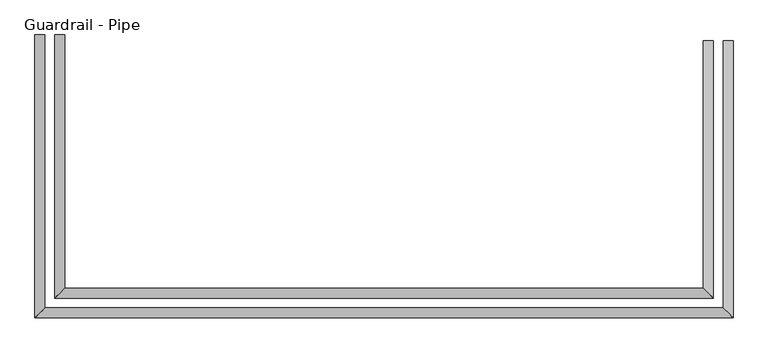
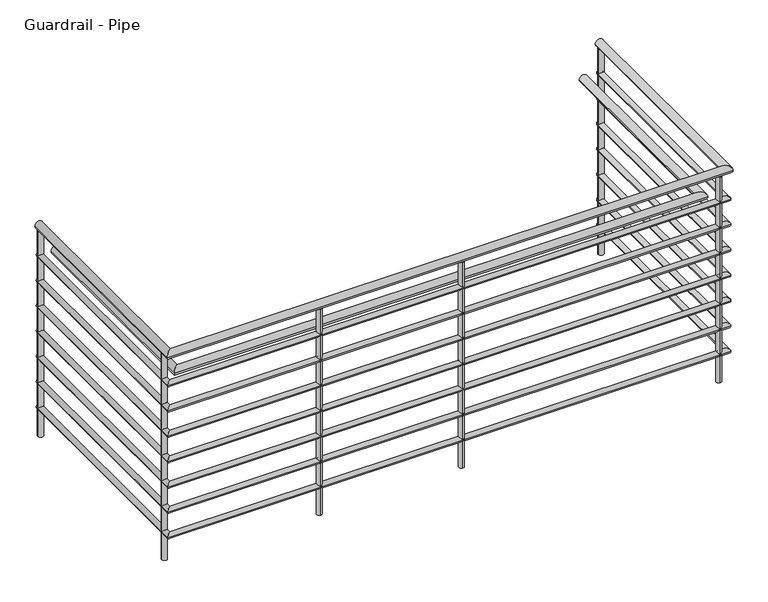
"""IFC4 building model written with IfcOpenShell, lengths in millimetres: railing geometry, Guardrail - Pipe."""

from ifc_helpers import new_model, si_unit, point, frame, frame_2d, origin, place, context, project, spatial, circle_curve, ellipse_curve, trimmed, segment, composite_curve, outline, extrude, source, transform, mapped, element, save
from ifc_brep_helpers import plane_surface, cylinder_surface, advanced_brep


def guardrail_pipe_d0326d6f(model_context):
    return source(origin(), model_context, "Body", "SolidModel", [
        advanced_brep(
        [(-3673.2939612, -6967.115357, 8362.95), (-3635.1939612, -6967.115357, 8362.95), (-3673.2939612, -8052.965357, 8362.95), (-3635.1939612, -8014.865357, 8362.95), (-993.5939612, -8052.965357, 8362.95), (-1031.6939612, -8014.865357, 8362.95), (-993.5939612, -6989.340357, 8362.95), (-1031.6939612, -6989.340357, 8362.95)],
        [
            (0, 1, circle_curve(frame((-3654.2439612, -6967.115357, 8362.95), z_axis=(0.0, 1.0, 0.0), x_axis=(1.0, 0.0, 0.0)), 19.05)),
            (1, 0, circle_curve(frame((-3654.2439612, -6967.115357, 8362.95), z_axis=(0.0, 1.0, 0.0), x_axis=(1.0, 0.0, 0.0)), 19.05)),
            (0, 2),
            (2, 3, ellipse_curve(frame((-3654.2439612, -8033.915357, 8362.95), z_axis=(-0.7071067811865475, 0.7071067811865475, 0.0), x_axis=(0.7071067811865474, 0.7071067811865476, 0.0)), 26.9407684, 19.05)),
            (3, 1),
            (3, 2, ellipse_curve(frame((-3654.2439612, -8033.915357, 8362.95), z_axis=(-0.7071067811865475, 0.7071067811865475, 0.0), x_axis=(0.7071067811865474, 0.7071067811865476, 0.0)), 26.9407684, 19.05)),
            (2, 4),
            (4, 5, ellipse_curve(frame((-1012.6439612, -8033.915357, 8362.95), z_axis=(-0.7071067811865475, -0.7071067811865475, 0.0), x_axis=(-0.7071067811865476, 0.7071067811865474, 0.0)), 26.9407684, 19.05)),
            (5, 3),
            (5, 4, ellipse_curve(frame((-1012.6439612, -8033.915357, 8362.95), z_axis=(-0.7071067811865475, -0.7071067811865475, 0.0), x_axis=(-0.7071067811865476, 0.7071067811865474, 0.0)), 26.9407684, 19.05)),
            (6, 7, circle_curve(frame((-1012.6439612, -6989.340357, 8362.95), z_axis=(0.0, 1.0, 0.0), x_axis=(-1.0, 0.0, 0.0)), 19.05)),
            (7, 6, circle_curve(frame((-1012.6439612, -6989.340357, 8362.95), z_axis=(0.0, 1.0, 0.0), x_axis=(-1.0, 0.0, 0.0)), 19.05)),
            (4, 6),
            (7, 5),
        ],
        [
            plane_surface(frame((-3654.2439612, -6967.115357, 8382.0), z_axis=(0.0, 1.0, 0.0), x_axis=(0.0, 0.0, -1.0))),
            cylinder_surface(frame((-3654.2439612, -6967.115357, 8362.95), z_axis=(0.0, 1.0, 0.0), x_axis=(1.0, 0.0, 0.0)), 19.05),
            cylinder_surface(frame((-3654.2439612, -8033.915357, 8362.95), z_axis=(-1.0, 0.0, 0.0), x_axis=(0.0, 1.0, 0.0)), 19.05),
            plane_surface(frame((-1012.6439612, -6989.340357, 8382.0), z_axis=(0.0, 1.0, 0.0), x_axis=(0.0, 0.0, 1.0))),
            cylinder_surface(frame((-1012.6439612, -8033.915357, 8362.95), z_axis=(0.0, -1.0, 0.0), x_axis=(-1.0, 0.0, 0.0)), 19.05),
        ],
        [
            (0, [[1, 2]]),
            (1, [[-1, 3, 4, 5]]),
            (1, [[-2, -5, 6, -3]]),
            (2, [[-4, 7, 8, 9]]),
            (2, [[-6, -9, 10, -7]]),
            (3, [[11, 12]]),
            (4, [[-8, 13, -12, 14]]),
            (4, [[-10, -14, -11, -13]]),
        ],
    ),
        advanced_brep(
        [(-3666.9439612, -6967.115357, 8216.9), (-3641.5439612, -6967.115357, 8216.9), (-3666.9439612, -8046.615357, 8216.9), (-3641.5439612, -8021.215357, 8216.9), (-999.9439612, -8046.615357, 8216.9), (-1025.3439612, -8021.215357, 8216.9), (-999.9439612, -6989.340357, 8216.9), (-1025.3439612, -6989.340357, 8216.9)],
        [
            (0, 1, circle_curve(frame((-3654.2439612, -6967.115357, 8216.9), z_axis=(0.0, 1.0, 0.0), x_axis=(1.0, 0.0, 0.0)), 12.7)),
            (1, 0, circle_curve(frame((-3654.2439612, -6967.115357, 8216.9), z_axis=(0.0, 1.0, 0.0), x_axis=(1.0, 0.0, 0.0)), 12.7)),
            (0, 2),
            (2, 3, ellipse_curve(frame((-3654.2439612, -8033.915357, 8216.9), z_axis=(-0.7071067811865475, 0.7071067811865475, 0.0), x_axis=(0.7071067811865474, 0.7071067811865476, 0.0)), 17.9605122, 12.7)),
            (3, 1),
            (3, 2, ellipse_curve(frame((-3654.2439612, -8033.915357, 8216.9), z_axis=(-0.7071067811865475, 0.7071067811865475, 0.0), x_axis=(0.7071067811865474, 0.7071067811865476, 0.0)), 17.9605122, 12.7)),
            (2, 4),
            (4, 5, ellipse_curve(frame((-1012.6439612, -8033.915357, 8216.9), z_axis=(-0.7071067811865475, -0.7071067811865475, 0.0), x_axis=(-0.7071067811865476, 0.7071067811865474, 0.0)), 17.9605122, 12.7)),
            (5, 3),
            (5, 4, ellipse_curve(frame((-1012.6439612, -8033.915357, 8216.9), z_axis=(-0.7071067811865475, -0.7071067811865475, 0.0), x_axis=(-0.7071067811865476, 0.7071067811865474, 0.0)), 17.9605122, 12.7)),
            (6, 7, circle_curve(frame((-1012.6439612, -6989.340357, 8216.9), z_axis=(0.0, 1.0, 0.0), x_axis=(-1.0, 0.0, 0.0)), 12.7)),
            (7, 6, circle_curve(frame((-1012.6439612, -6989.340357, 8216.9), z_axis=(0.0, 1.0, 0.0), x_axis=(-1.0, 0.0, 0.0)), 12.7)),
            (4, 6),
            (7, 5),
        ],
        [
            plane_surface(frame((-3654.2439612, -6967.115357, 8229.6), z_axis=(0.0, 1.0, 0.0), x_axis=(0.0, 0.0, -1.0))),
            cylinder_surface(frame((-3654.2439612, -6967.115357, 8216.9), z_axis=(0.0, 1.0, 0.0), x_axis=(1.0, 0.0, 0.0)), 12.7),
            cylinder_surface(frame((-3654.2439612, -8033.915357, 8216.9), z_axis=(-1.0, 0.0, 0.0), x_axis=(0.0, 1.0, 0.0)), 12.7),
            plane_surface(frame((-1012.6439612, -6989.340357, 8229.6), z_axis=(0.0, 1.0, 0.0), x_axis=(0.0, 0.0, 1.0))),
            cylinder_surface(frame((-1012.6439612, -8033.915357, 8216.9), z_axis=(0.0, -1.0, 0.0), x_axis=(-1.0, 0.0, 0.0)), 12.7),
        ],
        [
            (0, [[1, 2]]),
            (1, [[-1, 3, 4, 5]]),
            (1, [[-2, -5, 6, -3]]),
            (2, [[-4, 7, 8, 9]]),
            (2, [[-6, -9, 10, -7]]),
            (3, [[11, 12]]),
            (4, [[-8, 13, -12, 14]]),
            (4, [[-10, -14, -11, -13]]),
        ],
    ),
        advanced_brep(
        [(-3597.0939612, -6967.115357, 8210.55), (-3558.9939612, -6967.115357, 8210.55), (-3597.0939612, -7976.765357, 8210.55), (-3558.9939612, -7938.665357, 8210.55), (-1069.7939612, -7976.765357, 8210.55), (-1107.8939612, -7938.665357, 8210.55), (-1069.7939612, -6989.340357, 8210.55), (-1107.8939612, -6989.340357, 8210.55)],
        [
            (0, 1, circle_curve(frame((-3578.0439612, -6967.115357, 8210.55), z_axis=(0.0, 1.0, 0.0), x_axis=(1.0, 0.0, 0.0)), 19.05)),
            (1, 0, circle_curve(frame((-3578.0439612, -6967.115357, 8210.55), z_axis=(0.0, 1.0, 0.0), x_axis=(1.0, 0.0, 0.0)), 19.05)),
            (0, 2),
            (2, 3, ellipse_curve(frame((-3578.0439612, -7957.715357, 8210.55), z_axis=(-0.7071067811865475, 0.7071067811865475, 0.0), x_axis=(0.7071067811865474, 0.7071067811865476, 0.0)), 26.9407684, 19.05)),
            (3, 1),
            (3, 2, ellipse_curve(frame((-3578.0439612, -7957.715357, 8210.55), z_axis=(-0.7071067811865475, 0.7071067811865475, 0.0), x_axis=(0.7071067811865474, 0.7071067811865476, 0.0)), 26.9407684, 19.05)),
            (2, 4),
            (4, 5, ellipse_curve(frame((-1088.8439612, -7957.715357, 8210.55), z_axis=(-0.7071067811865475, -0.7071067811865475, 0.0), x_axis=(-0.7071067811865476, 0.7071067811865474, 0.0)), 26.9407684, 19.05)),
            (5, 3),
            (5, 4, ellipse_curve(frame((-1088.8439612, -7957.715357, 8210.55), z_axis=(-0.7071067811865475, -0.7071067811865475, 0.0), x_axis=(-0.7071067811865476, 0.7071067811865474, 0.0)), 26.9407684, 19.05)),
            (6, 7, circle_curve(frame((-1088.8439612, -6989.340357, 8210.55), z_axis=(0.0, 1.0, 0.0), x_axis=(-1.0, 0.0, 0.0)), 19.05)),
            (7, 6, circle_curve(frame((-1088.8439612, -6989.340357, 8210.55), z_axis=(0.0, 1.0, 0.0), x_axis=(-1.0, 0.0, 0.0)), 19.05)),
            (4, 6),
            (7, 5),
        ],
        [
            plane_surface(frame((-3578.0439612, -6967.115357, 8229.6), z_axis=(0.0, 1.0, 0.0), x_axis=(0.0, 0.0, -1.0))),
            cylinder_surface(frame((-3578.0439612, -6967.115357, 8210.55), z_axis=(0.0, 1.0, 0.0), x_axis=(1.0, 0.0, 0.0)), 19.05),
            cylinder_surface(frame((-3578.0439612, -7957.715357, 8210.55), z_axis=(-1.0, 0.0, 0.0), x_axis=(0.0, 1.0, 0.0)), 19.05),
            plane_surface(frame((-1088.8439612, -6989.340357, 8229.6), z_axis=(0.0, 1.0, 0.0), x_axis=(0.0, 0.0, 1.0))),
            cylinder_surface(frame((-1088.8439612, -7957.715357, 8210.55), z_axis=(0.0, -1.0, 0.0), x_axis=(-1.0, 0.0, 0.0)), 19.05),
        ],
        [
            (0, [[1, 2]]),
            (1, [[-1, 3, 4, 5]]),
            (1, [[-2, -5, 6, -3]]),
            (2, [[-4, 7, 8, 9]]),
            (2, [[-6, -9, 10, -7]]),
            (3, [[11, 12]]),
            (4, [[-8, 13, -12, 14]]),
            (4, [[-10, -14, -11, -13]]),
        ],
    ),
        advanced_brep(
        [(-3666.9439612, -6967.115357, 8089.9), (-3641.5439612, -6967.115357, 8089.9), (-3666.9439612, -8046.615357, 8089.9), (-3641.5439612, -8021.215357, 8089.9), (-999.9439612, -8046.615357, 8089.9), (-1025.3439612, -8021.215357, 8089.9), (-999.9439612, -6989.340357, 8089.9), (-1025.3439612, -6989.340357, 8089.9)],
        [
            (0, 1, circle_curve(frame((-3654.2439612, -6967.115357, 8089.9), z_axis=(0.0, 1.0, 0.0), x_axis=(1.0, 0.0, 0.0)), 12.7)),
            (1, 0, circle_curve(frame((-3654.2439612, -6967.115357, 8089.9), z_axis=(0.0, 1.0, 0.0), x_axis=(1.0, 0.0, 0.0)), 12.7)),
            (0, 2),
            (2, 3, ellipse_curve(frame((-3654.2439612, -8033.915357, 8089.9), z_axis=(-0.7071067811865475, 0.7071067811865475, 0.0), x_axis=(0.7071067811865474, 0.7071067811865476, 0.0)), 17.9605122, 12.7)),
            (3, 1),
            (3, 2, ellipse_curve(frame((-3654.2439612, -8033.915357, 8089.9), z_axis=(-0.7071067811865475, 0.7071067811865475, 0.0), x_axis=(0.7071067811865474, 0.7071067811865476, 0.0)), 17.9605122, 12.7)),
            (2, 4),
            (4, 5, ellipse_curve(frame((-1012.6439612, -8033.915357, 8089.9), z_axis=(-0.7071067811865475, -0.7071067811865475, 0.0), x_axis=(-0.7071067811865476, 0.7071067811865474, 0.0)), 17.9605122, 12.7)),
            (5, 3),
            (5, 4, ellipse_curve(frame((-1012.6439612, -8033.915357, 8089.9), z_axis=(-0.7071067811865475, -0.7071067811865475, 0.0), x_axis=(-0.7071067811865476, 0.7071067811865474, 0.0)), 17.9605122, 12.7)),
            (6, 7, circle_curve(frame((-1012.6439612, -6989.340357, 8089.9), z_axis=(0.0, 1.0, 0.0), x_axis=(-1.0, 0.0, 0.0)), 12.7)),
            (7, 6, circle_curve(frame((-1012.6439612, -6989.340357, 8089.9), z_axis=(0.0, 1.0, 0.0), x_axis=(-1.0, 0.0, 0.0)), 12.7)),
            (4, 6),
            (7, 5),
        ],
        [
            plane_surface(frame((-3654.2439612, -6967.115357, 8102.6), z_axis=(0.0, 1.0, 0.0), x_axis=(0.0, 0.0, -1.0))),
            cylinder_surface(frame((-3654.2439612, -6967.115357, 8089.9), z_axis=(0.0, 1.0, 0.0), x_axis=(1.0, 0.0, 0.0)), 12.7),
            cylinder_surface(frame((-3654.2439612, -8033.915357, 8089.9), z_axis=(-1.0, 0.0, 0.0), x_axis=(0.0, 1.0, 0.0)), 12.7),
            plane_surface(frame((-1012.6439612, -6989.340357, 8102.6), z_axis=(0.0, 1.0, 0.0), x_axis=(0.0, 0.0, 1.0))),
            cylinder_surface(frame((-1012.6439612, -8033.915357, 8089.9), z_axis=(0.0, -1.0, 0.0), x_axis=(-1.0, 0.0, 0.0)), 12.7),
        ],
        [
            (0, [[1, 2]]),
            (1, [[-1, 3, 4, 5]]),
            (1, [[-2, -5, 6, -3]]),
            (2, [[-4, 7, 8, 9]]),
            (2, [[-6, -9, 10, -7]]),
            (3, [[11, 12]]),
            (4, [[-8, 13, -12, 14]]),
            (4, [[-10, -14, -11, -13]]),
        ],
    ),
        advanced_brep(
        [(-3666.9439612, -6967.115357, 7962.9), (-3641.5439612, -6967.115357, 7962.9), (-3666.9439612, -8046.615357, 7962.9), (-3641.5439612, -8021.215357, 7962.9), (-999.9439612, -8046.615357, 7962.9), (-1025.3439612, -8021.215357, 7962.9), (-999.9439612, -6989.340357, 7962.9), (-1025.3439612, -6989.340357, 7962.9)],
        [
            (0, 1, circle_curve(frame((-3654.2439612, -6967.115357, 7962.9), z_axis=(0.0, 1.0, 0.0), x_axis=(1.0, 0.0, 0.0)), 12.7)),
            (1, 0, circle_curve(frame((-3654.2439612, -6967.115357, 7962.9), z_axis=(0.0, 1.0, 0.0), x_axis=(1.0, 0.0, 0.0)), 12.7)),
            (0, 2),
            (2, 3, ellipse_curve(frame((-3654.2439612, -8033.915357, 7962.9), z_axis=(-0.7071067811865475, 0.7071067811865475, 0.0), x_axis=(0.7071067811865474, 0.7071067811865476, 0.0)), 17.9605122, 12.7)),
            (3, 1),
            (3, 2, ellipse_curve(frame((-3654.2439612, -8033.915357, 7962.9), z_axis=(-0.7071067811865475, 0.7071067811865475, 0.0), x_axis=(0.7071067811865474, 0.7071067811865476, 0.0)), 17.9605122, 12.7)),
            (2, 4),
            (4, 5, ellipse_curve(frame((-1012.6439612, -8033.915357, 7962.9), z_axis=(-0.7071067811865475, -0.7071067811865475, 0.0), x_axis=(-0.7071067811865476, 0.7071067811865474, 0.0)), 17.9605122, 12.7)),
            (5, 3),
            (5, 4, ellipse_curve(frame((-1012.6439612, -8033.915357, 7962.9), z_axis=(-0.7071067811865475, -0.7071067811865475, 0.0), x_axis=(-0.7071067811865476, 0.7071067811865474, 0.0)), 17.9605122, 12.7)),
            (6, 7, circle_curve(frame((-1012.6439612, -6989.340357, 7962.9), z_axis=(0.0, 1.0, 0.0), x_axis=(-1.0, 0.0, 0.0)), 12.7)),
            (7, 6, circle_curve(frame((-1012.6439612, -6989.340357, 7962.9), z_axis=(0.0, 1.0, 0.0), x_axis=(-1.0, 0.0, 0.0)), 12.7)),
            (4, 6),
            (7, 5),
        ],
        [
            plane_surface(frame((-3654.2439612, -6967.115357, 7975.6), z_axis=(0.0, 1.0, 0.0), x_axis=(0.0, 0.0, -1.0))),
            cylinder_surface(frame((-3654.2439612, -6967.115357, 7962.9), z_axis=(0.0, 1.0, 0.0), x_axis=(1.0, 0.0, 0.0)), 12.7),
            cylinder_surface(frame((-3654.2439612, -8033.915357, 7962.9), z_axis=(-1.0, 0.0, 0.0), x_axis=(0.0, 1.0, 0.0)), 12.7),
            plane_surface(frame((-1012.6439612, -6989.340357, 7975.6), z_axis=(0.0, 1.0, 0.0), x_axis=(0.0, 0.0, 1.0))),
            cylinder_surface(frame((-1012.6439612, -8033.915357, 7962.9), z_axis=(0.0, -1.0, 0.0), x_axis=(-1.0, 0.0, 0.0)), 12.7),
        ],
        [
            (0, [[1, 2]]),
            (1, [[-1, 3, 4, 5]]),
            (1, [[-2, -5, 6, -3]]),
            (2, [[-4, 7, 8, 9]]),
            (2, [[-6, -9, 10, -7]]),
            (3, [[11, 12]]),
            (4, [[-8, 13, -12, 14]]),
            (4, [[-10, -14, -11, -13]]),
        ],
    ),
        advanced_brep(
        [(-3666.9439612, -6967.115357, 7835.9), (-3641.5439612, -6967.115357, 7835.9), (-3666.9439612, -8046.615357, 7835.9), (-3641.5439612, -8021.215357, 7835.9), (-999.9439612, -8046.615357, 7835.9), (-1025.3439612, -8021.215357, 7835.9), (-999.9439612, -6989.340357, 7835.9), (-1025.3439612, -6989.340357, 7835.9)],
        [
            (0, 1, circle_curve(frame((-3654.2439612, -6967.115357, 7835.9), z_axis=(0.0, 1.0, 0.0), x_axis=(1.0, 0.0, 0.0)), 12.7)),
            (1, 0, circle_curve(frame((-3654.2439612, -6967.115357, 7835.9), z_axis=(0.0, 1.0, 0.0), x_axis=(1.0, 0.0, 0.0)), 12.7)),
            (0, 2),
            (2, 3, ellipse_curve(frame((-3654.2439612, -8033.915357, 7835.9), z_axis=(-0.7071067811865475, 0.7071067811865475, 0.0), x_axis=(0.7071067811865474, 0.7071067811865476, 0.0)), 17.9605122, 12.7)),
            (3, 1),
            (3, 2, ellipse_curve(frame((-3654.2439612, -8033.915357, 7835.9), z_axis=(-0.7071067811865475, 0.7071067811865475, 0.0), x_axis=(0.7071067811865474, 0.7071067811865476, 0.0)), 17.9605122, 12.7)),
            (2, 4),
            (4, 5, ellipse_curve(frame((-1012.6439612, -8033.915357, 7835.9), z_axis=(-0.7071067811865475, -0.7071067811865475, 0.0), x_axis=(-0.7071067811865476, 0.7071067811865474, 0.0)), 17.9605122, 12.7)),
            (5, 3),
            (5, 4, ellipse_curve(frame((-1012.6439612, -8033.915357, 7835.9), z_axis=(-0.7071067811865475, -0.7071067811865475, 0.0), x_axis=(-0.7071067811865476, 0.7071067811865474, 0.0)), 17.9605122, 12.7)),
            (6, 7, circle_curve(frame((-1012.6439612, -6989.340357, 7835.9), z_axis=(0.0, 1.0, 0.0), x_axis=(-1.0, 0.0, 0.0)), 12.7)),
            (7, 6, circle_curve(frame((-1012.6439612, -6989.340357, 7835.9), z_axis=(0.0, 1.0, 0.0), x_axis=(-1.0, 0.0, 0.0)), 12.7)),
            (4, 6),
            (7, 5),
        ],
        [
            plane_surface(frame((-3654.2439612, -6967.115357, 7848.6), z_axis=(0.0, 1.0, 0.0), x_axis=(0.0, 0.0, -1.0))),
            cylinder_surface(frame((-3654.2439612, -6967.115357, 7835.9), z_axis=(0.0, 1.0, 0.0), x_axis=(1.0, 0.0, 0.0)), 12.7),
            cylinder_surface(frame((-3654.2439612, -8033.915357, 7835.9), z_axis=(-1.0, 0.0, 0.0), x_axis=(0.0, 1.0, 0.0)), 12.7),
            plane_surface(frame((-1012.6439612, -6989.340357, 7848.6), z_axis=(0.0, 1.0, 0.0), x_axis=(0.0, 0.0, 1.0))),
            cylinder_surface(frame((-1012.6439612, -8033.915357, 7835.9), z_axis=(0.0, -1.0, 0.0), x_axis=(-1.0, 0.0, 0.0)), 12.7),
        ],
        [
            (0, [[1, 2]]),
            (1, [[-1, 3, 4, 5]]),
            (1, [[-2, -5, 6, -3]]),
            (2, [[-4, 7, 8, 9]]),
            (2, [[-6, -9, 10, -7]]),
            (3, [[11, 12]]),
            (4, [[-8, 13, -12, 14]]),
            (4, [[-10, -14, -11, -13]]),
        ],
    ),
        advanced_brep(
        [(-3666.9439612, -6967.115357, 7708.9), (-3641.5439612, -6967.115357, 7708.9), (-3666.9439612, -8046.615357, 7708.9), (-3641.5439612, -8021.215357, 7708.9), (-999.9439612, -8046.615357, 7708.9), (-1025.3439612, -8021.215357, 7708.9), (-999.9439612, -6989.340357, 7708.9), (-1025.3439612, -6989.340357, 7708.9)],
        [
            (0, 1, circle_curve(frame((-3654.2439612, -6967.115357, 7708.9), z_axis=(0.0, 1.0, 0.0), x_axis=(1.0, 0.0, 0.0)), 12.7)),
            (1, 0, circle_curve(frame((-3654.2439612, -6967.115357, 7708.9), z_axis=(0.0, 1.0, 0.0), x_axis=(1.0, 0.0, 0.0)), 12.7)),
            (0, 2),
            (2, 3, ellipse_curve(frame((-3654.2439612, -8033.915357, 7708.9), z_axis=(-0.7071067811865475, 0.7071067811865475, 0.0), x_axis=(0.7071067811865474, 0.7071067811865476, 0.0)), 17.9605122, 12.7)),
            (3, 1),
            (3, 2, ellipse_curve(frame((-3654.2439612, -8033.915357, 7708.9), z_axis=(-0.7071067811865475, 0.7071067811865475, 0.0), x_axis=(0.7071067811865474, 0.7071067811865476, 0.0)), 17.9605122, 12.7)),
            (2, 4),
            (4, 5, ellipse_curve(frame((-1012.6439612, -8033.915357, 7708.9), z_axis=(-0.7071067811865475, -0.7071067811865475, 0.0), x_axis=(-0.7071067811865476, 0.7071067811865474, 0.0)), 17.9605122, 12.7)),
            (5, 3),
            (5, 4, ellipse_curve(frame((-1012.6439612, -8033.915357, 7708.9), z_axis=(-0.7071067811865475, -0.7071067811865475, 0.0), x_axis=(-0.7071067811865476, 0.7071067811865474, 0.0)), 17.9605122, 12.7)),
            (6, 7, circle_curve(frame((-1012.6439612, -6989.340357, 7708.9), z_axis=(0.0, 1.0, 0.0), x_axis=(-1.0, 0.0, 0.0)), 12.7)),
            (7, 6, circle_curve(frame((-1012.6439612, -6989.340357, 7708.9), z_axis=(0.0, 1.0, 0.0), x_axis=(-1.0, 0.0, 0.0)), 12.7)),
            (4, 6),
            (7, 5),
        ],
        [
            plane_surface(frame((-3654.2439612, -6967.115357, 7721.6), z_axis=(0.0, 1.0, 0.0), x_axis=(0.0, 0.0, -1.0))),
            cylinder_surface(frame((-3654.2439612, -6967.115357, 7708.9), z_axis=(0.0, 1.0, 0.0), x_axis=(1.0, 0.0, 0.0)), 12.7),
            cylinder_surface(frame((-3654.2439612, -8033.915357, 7708.9), z_axis=(-1.0, 0.0, 0.0), x_axis=(0.0, 1.0, 0.0)), 12.7),
            plane_surface(frame((-1012.6439612, -6989.340357, 7721.6), z_axis=(0.0, 1.0, 0.0), x_axis=(0.0, 0.0, 1.0))),
            cylinder_surface(frame((-1012.6439612, -8033.915357, 7708.9), z_axis=(0.0, -1.0, 0.0), x_axis=(-1.0, 0.0, 0.0)), 12.7),
        ],
        [
            (0, [[1, 2]]),
            (1, [[-1, 3, 4, 5]]),
            (1, [[-2, -5, 6, -3]]),
            (2, [[-4, 7, 8, 9]]),
            (2, [[-6, -9, 10, -7]]),
            (3, [[11, 12]]),
            (4, [[-8, 13, -12, 14]]),
            (4, [[-10, -14, -11, -13]]),
        ],
    ),
        advanced_brep(
        [(-3666.9439612, -6967.115357, 7581.9), (-3641.5439612, -6967.115357, 7581.9), (-3666.9439612, -8046.615357, 7581.9), (-3641.5439612, -8021.215357, 7581.9), (-999.9439612, -8046.615357, 7581.9), (-1025.3439612, -8021.215357, 7581.9), (-999.9439612, -6989.340357, 7581.9), (-1025.3439612, -6989.340357, 7581.9)],
        [
            (0, 1, circle_curve(frame((-3654.2439612, -6967.115357, 7581.9), z_axis=(0.0, 1.0, 0.0), x_axis=(1.0, 0.0, 0.0)), 12.7)),
            (1, 0, circle_curve(frame((-3654.2439612, -6967.115357, 7581.9), z_axis=(0.0, 1.0, 0.0), x_axis=(1.0, 0.0, 0.0)), 12.7)),
            (0, 2),
            (2, 3, ellipse_curve(frame((-3654.2439612, -8033.915357, 7581.9), z_axis=(-0.7071067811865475, 0.7071067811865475, 0.0), x_axis=(0.7071067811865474, 0.7071067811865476, 0.0)), 17.9605122, 12.7)),
            (3, 1),
            (3, 2, ellipse_curve(frame((-3654.2439612, -8033.915357, 7581.9), z_axis=(-0.7071067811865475, 0.7071067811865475, 0.0), x_axis=(0.7071067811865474, 0.7071067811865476, 0.0)), 17.9605122, 12.7)),
            (2, 4),
            (4, 5, ellipse_curve(frame((-1012.6439612, -8033.915357, 7581.9), z_axis=(-0.7071067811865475, -0.7071067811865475, 0.0), x_axis=(-0.7071067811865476, 0.7071067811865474, 0.0)), 17.9605122, 12.7)),
            (5, 3),
            (5, 4, ellipse_curve(frame((-1012.6439612, -8033.915357, 7581.9), z_axis=(-0.7071067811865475, -0.7071067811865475, 0.0), x_axis=(-0.7071067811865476, 0.7071067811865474, 0.0)), 17.9605122, 12.7)),
            (6, 7, circle_curve(frame((-1012.6439612, -6989.340357, 7581.9), z_axis=(0.0, 1.0, 0.0), x_axis=(-1.0, 0.0, 0.0)), 12.7)),
            (7, 6, circle_curve(frame((-1012.6439612, -6989.340357, 7581.9), z_axis=(0.0, 1.0, 0.0), x_axis=(-1.0, 0.0, 0.0)), 12.7)),
            (4, 6),
            (7, 5),
        ],
        [
            plane_surface(frame((-3654.2439612, -6967.115357, 7594.6), z_axis=(0.0, 1.0, 0.0), x_axis=(0.0, 0.0, -1.0))),
            cylinder_surface(frame((-3654.2439612, -6967.115357, 7581.9), z_axis=(0.0, 1.0, 0.0), x_axis=(1.0, 0.0, 0.0)), 12.7),
            cylinder_surface(frame((-3654.2439612, -8033.915357, 7581.9), z_axis=(-1.0, 0.0, 0.0), x_axis=(0.0, 1.0, 0.0)), 12.7),
            plane_surface(frame((-1012.6439612, -6989.340357, 7594.6), z_axis=(0.0, 1.0, 0.0), x_axis=(0.0, 0.0, 1.0))),
            cylinder_surface(frame((-1012.6439612, -8033.915357, 7581.9), z_axis=(0.0, -1.0, 0.0), x_axis=(-1.0, 0.0, 0.0)), 12.7),
        ],
        [
            (0, [[1, 2]]),
            (1, [[-1, 3, 4, 5]]),
            (1, [[-2, -5, 6, -3]]),
            (2, [[-4, 7, 8, 9]]),
            (2, [[-6, -9, 10, -7]]),
            (3, [[11, 12]]),
            (4, [[-8, 13, -12, 14]]),
            (4, [[-10, -14, -11, -13]]),
        ],
    ),
        advanced_brep(
        [(-3666.9439612, -6967.115357, 7454.9), (-3641.5439612, -6967.115357, 7454.9), (-3666.9439612, -8046.615357, 7454.9), (-3641.5439612, -8021.215357, 7454.9), (-999.9439612, -8046.615357, 7454.9), (-1025.3439612, -8021.215357, 7454.9), (-999.9439612, -6989.340357, 7454.9), (-1025.3439612, -6989.340357, 7454.9)],
        [
            (0, 1, circle_curve(frame((-3654.2439612, -6967.115357, 7454.9), z_axis=(0.0, 1.0, 0.0), x_axis=(1.0, 0.0, 0.0)), 12.7)),
            (1, 0, circle_curve(frame((-3654.2439612, -6967.115357, 7454.9), z_axis=(0.0, 1.0, 0.0), x_axis=(1.0, 0.0, 0.0)), 12.7)),
            (0, 2),
            (2, 3, ellipse_curve(frame((-3654.2439612, -8033.915357, 7454.9), z_axis=(-0.7071067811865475, 0.7071067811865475, 0.0), x_axis=(0.7071067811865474, 0.7071067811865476, 0.0)), 17.9605122, 12.7)),
            (3, 1),
            (3, 2, ellipse_curve(frame((-3654.2439612, -8033.915357, 7454.9), z_axis=(-0.7071067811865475, 0.7071067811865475, 0.0), x_axis=(0.7071067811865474, 0.7071067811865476, 0.0)), 17.9605122, 12.7)),
            (2, 4),
            (4, 5, ellipse_curve(frame((-1012.6439612, -8033.915357, 7454.9), z_axis=(-0.7071067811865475, -0.7071067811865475, 0.0), x_axis=(-0.7071067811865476, 0.7071067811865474, 0.0)), 17.9605122, 12.7)),
            (5, 3),
            (5, 4, ellipse_curve(frame((-1012.6439612, -8033.915357, 7454.9), z_axis=(-0.7071067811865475, -0.7071067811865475, 0.0), x_axis=(-0.7071067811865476, 0.7071067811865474, 0.0)), 17.9605122, 12.7)),
            (6, 7, circle_curve(frame((-1012.6439612, -6989.340357, 7454.9), z_axis=(0.0, 1.0, 0.0), x_axis=(-1.0, 0.0, 0.0)), 12.7)),
            (7, 6, circle_curve(frame((-1012.6439612, -6989.340357, 7454.9), z_axis=(0.0, 1.0, 0.0), x_axis=(-1.0, 0.0, 0.0)), 12.7)),
            (4, 6),
            (7, 5),
        ],
        [
            plane_surface(frame((-3654.2439612, -6967.115357, 7467.6), z_axis=(0.0, 1.0, 0.0), x_axis=(0.0, 0.0, -1.0))),
            cylinder_surface(frame((-3654.2439612, -6967.115357, 7454.9), z_axis=(0.0, 1.0, 0.0), x_axis=(1.0, 0.0, 0.0)), 12.7),
            cylinder_surface(frame((-3654.2439612, -8033.915357, 7454.9), z_axis=(-1.0, 0.0, 0.0), x_axis=(0.0, 1.0, 0.0)), 12.7),
            plane_surface(frame((-1012.6439612, -6989.340357, 7467.6), z_axis=(0.0, 1.0, 0.0), x_axis=(0.0, 0.0, 1.0))),
            cylinder_surface(frame((-1012.6439612, -8033.915357, 7454.9), z_axis=(0.0, -1.0, 0.0), x_axis=(-1.0, 0.0, 0.0)), 12.7),
        ],
        [
            (0, [[1, 2]]),
            (1, [[-1, 3, 4, 5]]),
            (1, [[-2, -5, 6, -3]]),
            (2, [[-4, 7, 8, 9]]),
            (2, [[-6, -9, 10, -7]]),
            (3, [[11, 12]]),
            (4, [[-8, 13, -12, 14]]),
            (4, [[-10, -14, -11, -13]]),
        ],
    ),
        extrude(outline(composite_curve([segment(trimmed(circle_curve(frame_2d((-1012.6439612, -7001.7219415)), 12.7), [point((-999.9439612, -7001.7219415))], [point((-1025.3439612, -7001.7219415))], False, "CARTESIAN"), True, "CONTINUOUS"), segment(trimmed(circle_curve(frame_2d((-1012.6439612, -7001.7219415)), 12.7), [point((-1025.3439612, -7001.7219415))], [point((-999.9439612, -7001.7219415))], False, "CARTESIAN"), True, "CONTINUOUS")], self_intersect=False)), frame((0.0, 0.0, 7315.2), z_axis=(0.0, 0.0, 1.0), x_axis=(1.0, 0.0, 0.0)), (0.0, 0.0, 1.0), 1028.7),
        extrude(outline(composite_curve([segment(trimmed(circle_curve(frame_2d((-1050.4255457, -8033.915357)), 12.7), [point((-1050.4255457, -8046.615357))], [point((-1050.4255457, -8021.215357))], False, "CARTESIAN"), True, "CONTINUOUS"), segment(trimmed(circle_curve(frame_2d((-1050.4255457, -8033.915357)), 12.7), [point((-1050.4255457, -8021.215357))], [point((-1050.4255457, -8046.615357))], False, "CARTESIAN"), True, "CONTINUOUS")], self_intersect=False)), frame((0.0, 0.0, 7315.2), z_axis=(0.0, 0.0, 1.0), x_axis=(1.0, 0.0, 0.0)), (0.0, 0.0, 1.0), 1028.7),
        extrude(outline(composite_curve([segment(trimmed(circle_curve(frame_2d((-2269.6255457, -8033.915357)), 12.7), [point((-2269.6255457, -8046.615357))], [point((-2269.6255457, -8021.215357))], False, "CARTESIAN"), True, "CONTINUOUS"), segment(trimmed(circle_curve(frame_2d((-2269.6255457, -8033.915357)), 12.7), [point((-2269.6255457, -8021.215357))], [point((-2269.6255457, -8046.615357))], False, "CARTESIAN"), True, "CONTINUOUS")], self_intersect=False)), frame((0.0, 0.0, 7315.2), z_axis=(0.0, 0.0, 1.0), x_axis=(1.0, 0.0, 0.0)), (0.0, 0.0, 1.0), 1028.7),
        extrude(outline(composite_curve([segment(trimmed(circle_curve(frame_2d((-2943.0439612, -8033.915357)), 12.7), [point((-2943.0439612, -8046.615357))], [point((-2943.0439612, -8021.215357))], False, "CARTESIAN"), True, "CONTINUOUS"), segment(trimmed(circle_curve(frame_2d((-2943.0439612, -8033.915357)), 12.7), [point((-2943.0439612, -8021.215357))], [point((-2943.0439612, -8046.615357))], False, "CARTESIAN"), True, "CONTINUOUS")], self_intersect=False)), frame((0.0, 0.0, 7315.2), z_axis=(0.0, 0.0, 1.0), x_axis=(1.0, 0.0, 0.0)), (0.0, 0.0, 1.0), 1028.7),
        extrude(outline(composite_curve([segment(trimmed(circle_curve(frame_2d((-3654.2439612, -7996.1337726)), 12.7), [point((-3666.9439612, -7996.1337726))], [point((-3641.5439612, -7996.1337726))], False, "CARTESIAN"), True, "CONTINUOUS"), segment(trimmed(circle_curve(frame_2d((-3654.2439612, -7996.1337726)), 12.7), [point((-3641.5439612, -7996.1337726))], [point((-3666.9439612, -7996.1337726))], False, "CARTESIAN"), True, "CONTINUOUS")], self_intersect=False)), frame((0.0, 0.0, 7315.2), z_axis=(0.0, 0.0, 1.0), x_axis=(1.0, 0.0, 0.0)), (0.0, 0.0, 1.0), 1028.7),
        extrude(outline(composite_curve([segment(trimmed(circle_curve(frame_2d((-3654.2439612, -6979.4969415)), 12.7), [point((-3666.9439612, -6979.4969415))], [point((-3641.5439612, -6979.4969415))], False, "CARTESIAN"), True, "CONTINUOUS"), segment(trimmed(circle_curve(frame_2d((-3654.2439612, -6979.4969415)), 12.7), [point((-3641.5439612, -6979.4969415))], [point((-3666.9439612, -6979.4969415))], False, "CARTESIAN"), True, "CONTINUOUS")], self_intersect=False)), frame((0.0, 0.0, 7315.2), z_axis=(0.0, 0.0, 1.0), x_axis=(1.0, 0.0, 0.0)), (0.0, 0.0, 1.0), 1028.7),
    ])


if __name__ == "__main__":
    model = new_model("IFC4")
    model_context = context("Model", 3, world=origin())
    ifc_project = project(units=[si_unit("LENGTHUNIT", "METRE", prefix="MILLI")], contexts=[model_context])
    site = spatial("IfcSite", under=ifc_project)
    building = spatial("IfcBuilding", under=site)
    placement = place(None, origin())
    guardrail_pipe_shape = guardrail_pipe_d0326d6f(model_context)
    element("IfcRailing", 1, ObjectType="Guardrail - Pipe", at=placement, inside=building, context=model_context, shape_type="MappedRepresentation", body=[
        mapped(guardrail_pipe_shape, transform((0.0, 0.0, 0.0), x_axis=(1.0, 0.0, 0.0), y_axis=(0.0, 1.0, 0.0), z_axis=(0.0, 0.0, 1.0))),
    ])
    save(model, "model.ifc")
